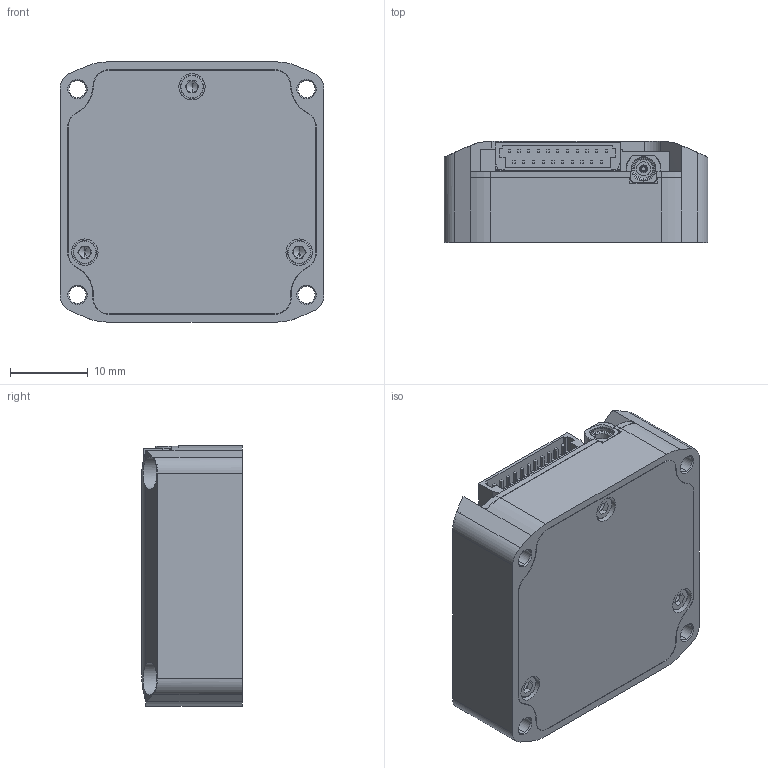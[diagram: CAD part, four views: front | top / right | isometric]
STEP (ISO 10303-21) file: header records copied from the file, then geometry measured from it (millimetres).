
FILE_DESCRIPTION (( 'STEP AP214' ), '1' );
FILE_NAME ('IGNG-OEM.STEP', '2014-09-30T12:27:16', ( '' ), ( '' ), 'SwSTEP 2.0', 'SolidWorks 2013', '' );
FILE_SCHEMA (( 'AUTOMOTIVE_DESIGN' ));
Length unit declared in the file: millimetre
Products named in the file (1): IGNG-OEM
Bounding box: 34 x 13 x 33.5 mm (x, y, z)
Volume: 13471.8 mm3; surface area: 5218.9 mm2
Topology: 2 solids, 2 shells, 1079 faces, 2964 edges, 1947 vertices
Faces by surface type: plane 745, cylinder 188, bspline 94, cone 44, torus 8
Entity records: 46597 total; most frequent: CARTESIAN_POINT 7562, ORIENTED_EDGE 5916, DIRECTION 5109, EDGE_CURVE 2958, VECTOR 2269, LINE 2269, VERTEX_POINT 1947, AXIS2_PLACEMENT_3D 1420
